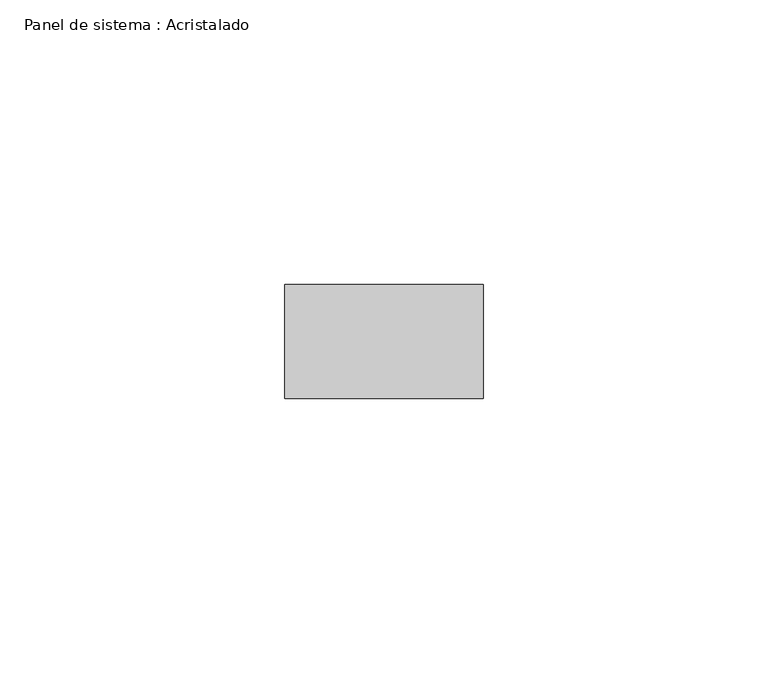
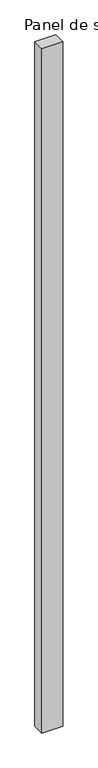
"""IFC4 building model written with IfcOpenShell, lengths in millimetres: plate geometry, Panel de sistema : Acristalado."""

from ifc_helpers import new_model, si_unit, origin, origin_with_axes, place, context, project, spatial, polyline, outline, extrude, source, transform, mapped, element, save


def panel_de_sistema_acristalado_bf7dd8eb(model_context):
    return source(origin(), model_context, "Body", "SweptSolid", [
        extrude(outline(polyline([(17.3740406, -10.0), (-17.3740406, -10.0), (-17.3740406, 10.0), (17.3740406, 10.0), (17.3740406, -10.0)])), origin_with_axes(), (0.0, 0.0, 1.0), 1205.0),
    ])


if __name__ == "__main__":
    model = new_model("IFC4")
    model_context = context("Model", 3, world=origin())
    ifc_project = project(units=[si_unit("LENGTHUNIT", "METRE", prefix="MILLI")], contexts=[model_context])
    site = spatial("IfcSite", under=ifc_project)
    building = spatial("IfcBuilding", under=site)
    placement = place(None, origin())
    panel_de_sistema_acristalado_shape = panel_de_sistema_acristalado_bf7dd8eb(model_context)
    element("IfcPlate", 1, ObjectType="Panel de sistema : Acristalado", at=placement, inside=building, context=model_context, shape_type="MappedRepresentation", body=[
        mapped(panel_de_sistema_acristalado_shape, transform((0.0, 0.0, 0.0), x_axis=(1.0, 0.0, 0.0), y_axis=(0.0, 1.0, 0.0), z_axis=(0.0, 0.0, 1.0))),
    ])
    save(model, "model.ifc")
